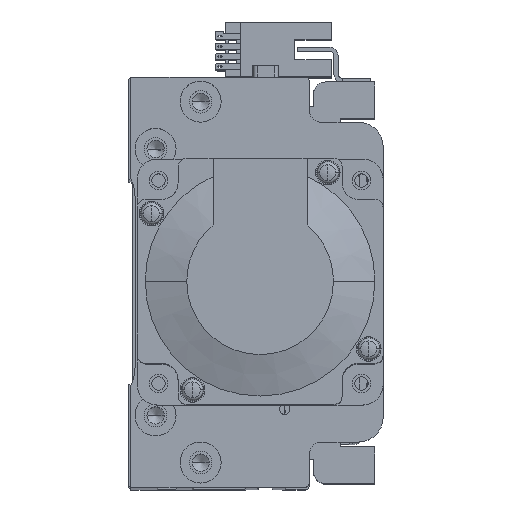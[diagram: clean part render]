
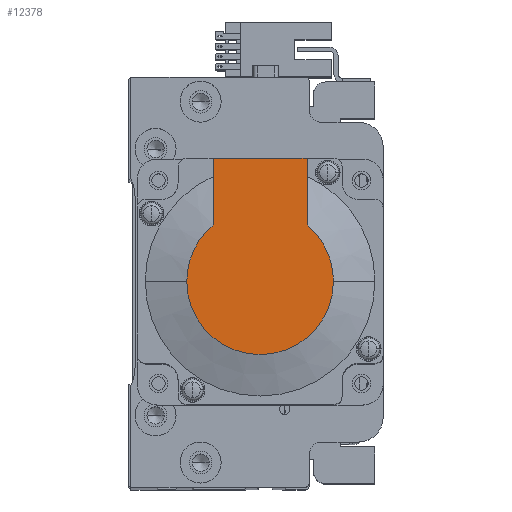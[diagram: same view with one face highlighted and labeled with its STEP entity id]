
A CAD part, top view. The second image highlights one B-rep face of the part: STEP entity #12378.
In plain terms, the highlighted planar face has unit normal (0, 0, 1) as drawn and (-1, 0, 0) by its records, which use the part's own axes.
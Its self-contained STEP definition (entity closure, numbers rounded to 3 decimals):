
#213 = DIRECTION ( 'NONE',  ( 0., -1., 0. ) ) ;
#1726 = EDGE_CURVE ( 'NONE', #6519, #25927, #25097, .T. ) ;
#2245 = CARTESIAN_POINT ( 'NONE',  ( -118.5, 0., -17.881 ) ) ;
#2498 = VERTEX_POINT ( 'NONE', #46000 ) ;
#2973 = LINE ( 'NONE', #20901, #11831 ) ;
#3970 = CARTESIAN_POINT ( 'NONE',  ( -118.5, 0., 0. ) ) ;
#4544 = ORIENTED_EDGE ( 'NONE', *, *, #21130, .T. ) ;
#6519 = VERTEX_POINT ( 'NONE', #37167 ) ;
#6757 = DIRECTION ( 'NONE',  ( -1., 0., 0. ) ) ;
#7277 = AXIS2_PLACEMENT_3D ( 'NONE', #3970, #30474, #7803 ) ;
#7803 = DIRECTION ( 'NONE',  ( 0., 0., -1. ) ) ;
#8168 = CARTESIAN_POINT ( 'NONE',  ( -118.5, 0., 0. ) ) ;
#9567 = ORIENTED_EDGE ( 'NONE', *, *, #19779, .F. ) ;
#11696 = CARTESIAN_POINT ( 'NONE',  ( -118.5, 0., 11.45 ) ) ;
#11831 = VECTOR ( 'NONE', #24737, 1000. ) ;
#11985 = DIRECTION ( 'NONE',  ( 0., 0., -1. ) ) ;
#11998 = VERTEX_POINT ( 'NONE', #41888 ) ;
#12378 = ADVANCED_FACE ( 'NONE', ( #29832 ), #40558, .T. ) ;
#15052 = LINE ( 'NONE', #11696, #34051 ) ;
#15110 = CIRCLE ( 'NONE', #45888, 17.881 ) ;
#15926 = EDGE_LOOP ( 'NONE', ( #35345, #4544, #32970, #31264, #9567, #31973 ) ) ;
#15957 = EDGE_CURVE ( 'NONE', #17543, #2498, #2973, .T. ) ;
#17267 = AXIS2_PLACEMENT_3D ( 'NONE', #29420, #6757, #33291 ) ;
#17543 = VERTEX_POINT ( 'NONE', #48412 ) ;
#19257 = EDGE_CURVE ( 'NONE', #43241, #6519, #34765, .T. ) ;
#19291 = LINE ( 'NONE', #20476, #47228 ) ;
#19779 = EDGE_CURVE ( 'NONE', #2498, #25927, #15052, .T. ) ;
#20476 = CARTESIAN_POINT ( 'NONE',  ( -118.5, -8.941, -11.45 ) ) ;
#20901 = CARTESIAN_POINT ( 'NONE',  ( -118.5, 30., 25. ) ) ;
#21130 = EDGE_CURVE ( 'NONE', #11998, #43241, #15110, .T. ) ;
#23522 = CARTESIAN_POINT ( 'NONE',  ( -118.5, 13.735, 11.45 ) ) ;
#24737 = DIRECTION ( 'NONE',  ( 0., 0., 1. ) ) ;
#25097 = CIRCLE ( 'NONE', #45550, 17.881 ) ;
#25927 = VERTEX_POINT ( 'NONE', #23522 ) ;
#29420 = CARTESIAN_POINT ( 'NONE',  ( -118.5, -8.941, 0. ) ) ;
#29832 = FACE_OUTER_BOUND ( 'NONE', #15926, .T. ) ;
#30474 = DIRECTION ( 'NONE',  ( -1., 0., 0. ) ) ;
#31264 = ORIENTED_EDGE ( 'NONE', *, *, #1726, .T. ) ;
#31973 = ORIENTED_EDGE ( 'NONE', *, *, #15957, .F. ) ;
#32970 = ORIENTED_EDGE ( 'NONE', *, *, #19257, .T. ) ;
#33291 = DIRECTION ( 'NONE',  ( 0., 0., 1. ) ) ;
#34051 = VECTOR ( 'NONE', #213, 1000. ) ;
#34675 = DIRECTION ( 'NONE',  ( -1., 0., 0. ) ) ;
#34765 = CIRCLE ( 'NONE', #7277, 17.881 ) ;
#35345 = ORIENTED_EDGE ( 'NONE', *, *, #42760, .T. ) ;
#35842 = DIRECTION ( 'NONE',  ( 0., -1., 0. ) ) ;
#37167 = CARTESIAN_POINT ( 'NONE',  ( -118.5, 0., 17.881 ) ) ;
#40558 = PLANE ( 'NONE',  #17267 ) ;
#41888 = CARTESIAN_POINT ( 'NONE',  ( -118.5, 13.735, -11.45 ) ) ;
#42760 = EDGE_CURVE ( 'NONE', #17543, #11998, #19291, .T. ) ;
#43241 = VERTEX_POINT ( 'NONE', #2245 ) ;
#45550 = AXIS2_PLACEMENT_3D ( 'NONE', #46912, #47070, #46754 ) ;
#45888 = AXIS2_PLACEMENT_3D ( 'NONE', #8168, #34675, #11985 ) ;
#46000 = CARTESIAN_POINT ( 'NONE',  ( -118.5, 30., 11.45 ) ) ;
#46754 = DIRECTION ( 'NONE',  ( 0., 0., -1. ) ) ;
#46912 = CARTESIAN_POINT ( 'NONE',  ( -118.5, 0., 0. ) ) ;
#47070 = DIRECTION ( 'NONE',  ( -1., 0., 0. ) ) ;
#47228 = VECTOR ( 'NONE', #35842, 1000. ) ;
#48412 = CARTESIAN_POINT ( 'NONE',  ( -118.5, 30., -11.45 ) ) ;
